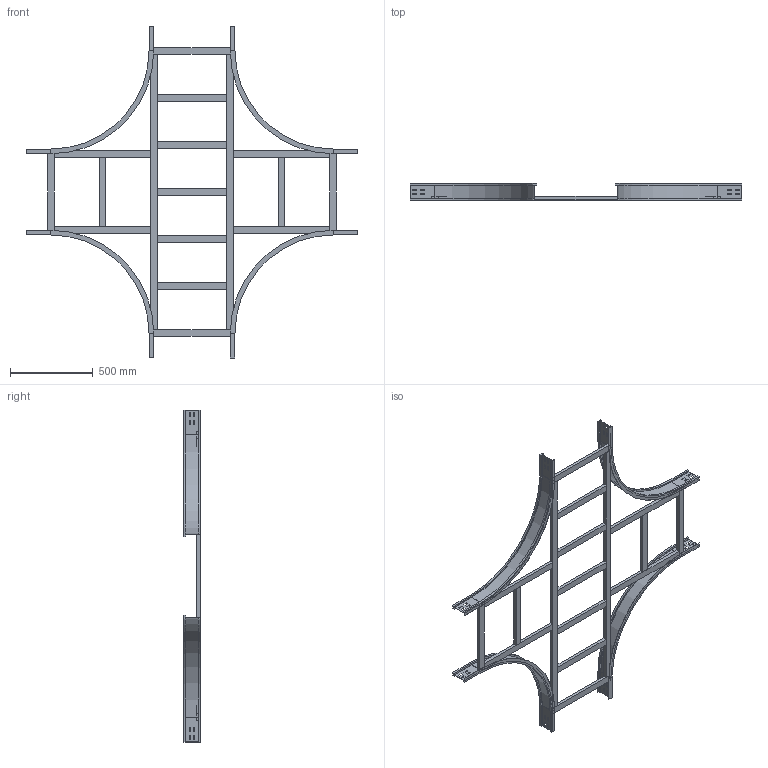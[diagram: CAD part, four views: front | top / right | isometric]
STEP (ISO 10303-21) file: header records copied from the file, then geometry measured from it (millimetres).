
FILE_DESCRIPTION (( 'STEP AP214' ), '1' );
FILE_NAME ('17S6D500.step', '2025-02-21T16:16:36', ( '' ), ( '' ), 'SwSTEP 2.0', 'SolidWorks 2023', '' );
FILE_SCHEMA (( 'AUTOMOTIVE_DESIGN' ));
Length unit declared in the file: millimetre
Products named in the file (7): TRAVERSINO_INTERMEDIO_X_R600+500; TRAVERSINO_COPPIA_500; TRAVERSINO_LONG._R600+500; LONGH.INTERNO 90°_H100_R600; TRAVERSINO_500; TRAVERSINO_VERT_R600; 17S6D500
Assembly tree (21 placements, depth 2):
  17S6D500
    LONGH.INTERNO 90°_H100_R600  x4
    TRAVERSINO_500  x4
    TRAVERSINO_LONG._R600+500  x2
    TRAVERSINO_INTERMEDIO_X_R600+500  x5
    TRAVERSINO_VERT_R600  x4
    TRAVERSINO_COPPIA_500  x2
Bounding box: 2000 x 100 x 2000 mm (x, y, z)
Volume: 11167711.9 mm3; surface area: 2775449 mm2
Topology: 21 solids, 21 shells, 382 faces, 924 edges, 584 vertices
Faces by surface type: plane 358, cylinder 24
Entity records: 3196 total; most frequent: CARTESIAN_POINT 516, DIRECTION 500, ORIENTED_EDGE 480, EDGE_CURVE 240, LINE 228, VECTOR 228, VERTEX_POINT 152, AXIS2_PLACEMENT_3D 136
